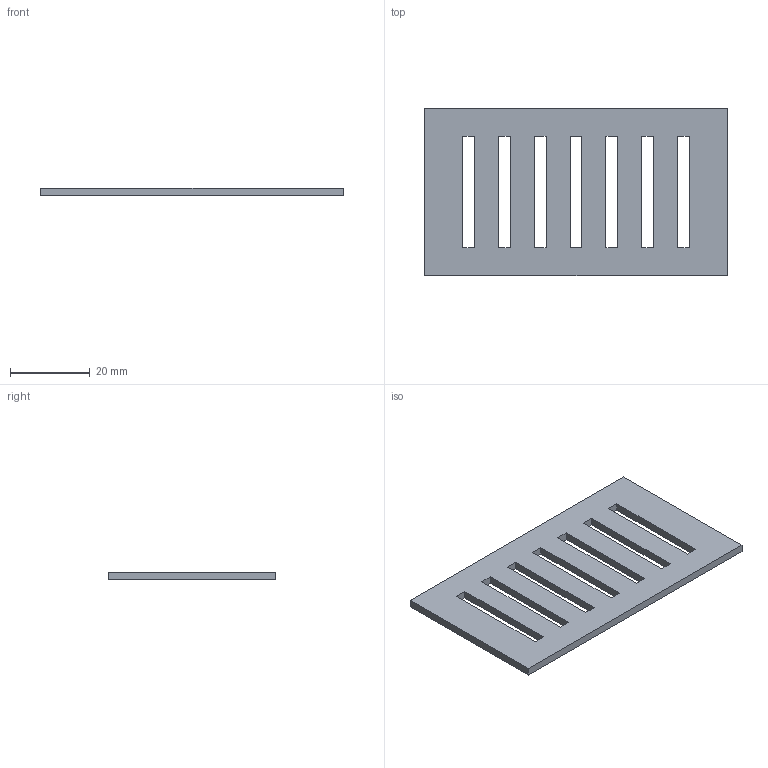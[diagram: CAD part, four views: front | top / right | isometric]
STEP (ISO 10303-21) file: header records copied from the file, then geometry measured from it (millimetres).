
FILE_DESCRIPTION(('Open CASCADE Model'),'2;1');
FILE_NAME('Open CASCADE Shape Model','2026-09-20T05:39:32',('Author'),( 'Open CASCADE'),'Open CASCADE STEP processor 7.9','Open CASCADE 7.9' ,'Unknown');
FILE_SCHEMA(('AUTOMOTIVE_DESIGN { 1 0 10303 214 1 1 1 1 }'));
Length unit declared in the file: millimetre
Products named in the file (1): Open CASCADE STEP translator 7.9 15
Bounding box: 76 x 42 x 2 mm (x, y, z)
Volume: 5208 mm3; surface area: 6548 mm2
Topology: 1 solids, 1 shells, 34 faces, 96 edges, 64 vertices
Faces by surface type: plane 34
Entity records: 2254 total; most frequent: CARTESIAN_POINT 499, DIRECTION 246, ORIENTED_EDGE 192, PCURVE 192, DEFINITIONAL_REPRESENTATION 192, LINE 176, VECTOR 176, B_SPLINE_CURVE_WITH_KNOTS 112
